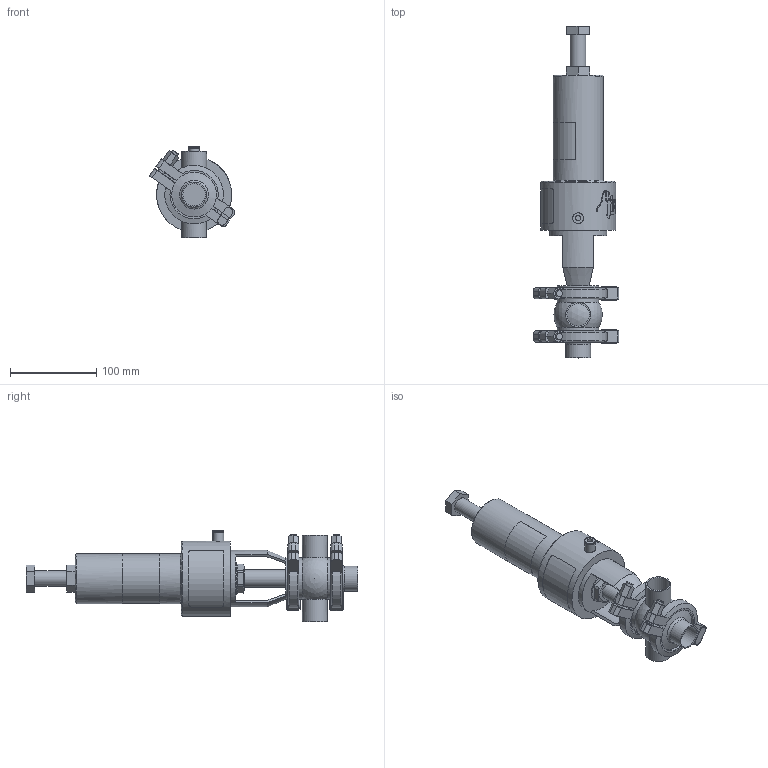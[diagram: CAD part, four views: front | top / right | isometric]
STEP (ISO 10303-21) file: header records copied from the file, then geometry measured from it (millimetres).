
FILE_DESCRIPTION (( 'STEP AP214' ), '1' );
FILE_NAME ('INNOVA J T W DIN 025_10.245.16.0002.STEP', '2024-08-08T08:01:39', ( '' ), ( '' ), 'SwSTEP 2.0', 'SolidWorks 2023', '' );
FILE_SCHEMA (( 'AUTOMOTIVE_DESIGN' ));
Length unit declared in the file: millimetre
Products named in the file (6): 10.240.15.0007_DIN 025; 10.247.15.0001_DIN 025; 10.240.15.0010_DN 025; INNOVA J T W DIN 025_10.245.16.0002; 10.240.15.0001_DN 025; 10.245.15.0001_T1 SE NC_DN 025
Assembly tree (6 placements, depth 2):
  INNOVA J T W DIN 025_10.245.16.0002
    10.240.15.0007_DIN 025
    10.247.15.0001_DIN 025
    10.240.15.0010_DN 025
    10.245.15.0001_T1 SE NC_DN 025
    10.240.15.0001_DN 025  x2
Bounding box: 99.01 x 385 x 106 mm (x, y, z)
Volume: 946414.8 mm3; surface area: 142318.2 mm2
Topology: 6 solids, 6 shells, 387 faces, 1034 edges, 679 vertices
Faces by surface type: plane 191, cylinder 83, bspline 78, cone 29, sphere 4, torus 2
Full cylindrical faces by diameter (mm): 6.15 x1, 8 x4, 10.5 x1, 12.5 x2, 18 x1, 20 x1, 26 x3, 29 x3, 36.5 x1, 48 x3, 58 x1, 59.7 x4, 66 x1, 87 x1
Entity records: 19164 total; most frequent: CARTESIAN_POINT 10015, ORIENTED_EDGE 1626, DIRECTION 1235, EDGE_CURVE 813, VERTEX_POINT 556, AXIS2_PLACEMENT_3D 461, EDGE_LOOP 395, FACE_OUTER_BOUND 356
